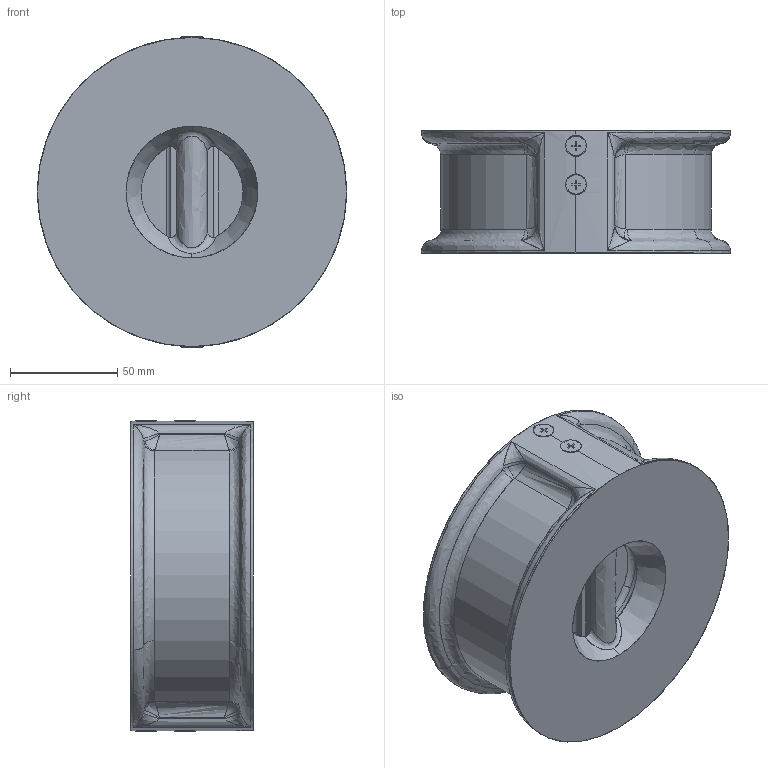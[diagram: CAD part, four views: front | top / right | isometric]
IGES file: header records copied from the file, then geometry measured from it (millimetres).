
Start section: SolidWorks IGES file using analytic representation for surfaces
Global section: file name: C:\Users\Administrator\Desktop\temp\00.IGS; native system: SolidWorks 2015; preprocessor: SolidWorks 2015; author: Administrator; date: 170402.164701; units: millimetre
Bounding box: 144 x 57 x 144.97 mm (x, y, z)
Surface area: 110388.6 mm2 (no closed solid volume)
Topology: 0 solids, 0 shells, 457 faces, 5039 edges, 5014 vertices
Faces by surface type: bspline 270, revolution 187
